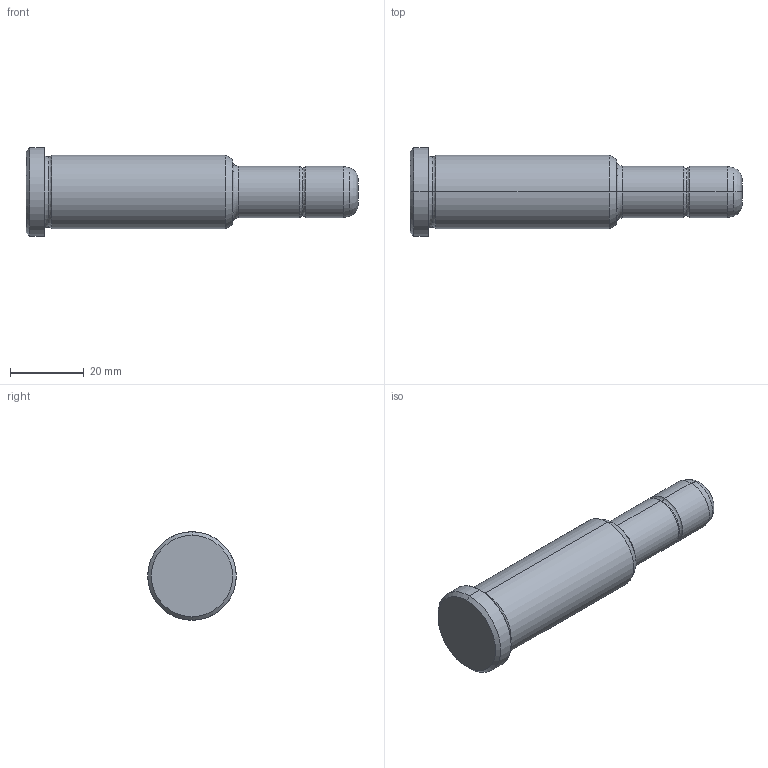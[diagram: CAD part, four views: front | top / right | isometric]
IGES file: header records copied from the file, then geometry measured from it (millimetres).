
Start section: START RECORD GO HERE.
Global section: file name: 351-14X56X90.igs; native system: DASSAULT SYSTEMES CATIA V5 R20 - www.3ds.com; preprocessor: CATIA Version 5 Release 20 ; author: Utente; organization: NB04-ASUS; date: 20210818.122629; units: millimetre
Bounding box: 90 x 24 x 24 mm (x, y, z)
Surface area: 5803.1 mm2 (no closed solid volume)
Topology: 0 solids, 0 shells, 30 faces, 172 edges, 172 vertices
Faces by surface type: revolution 26, plane 4
